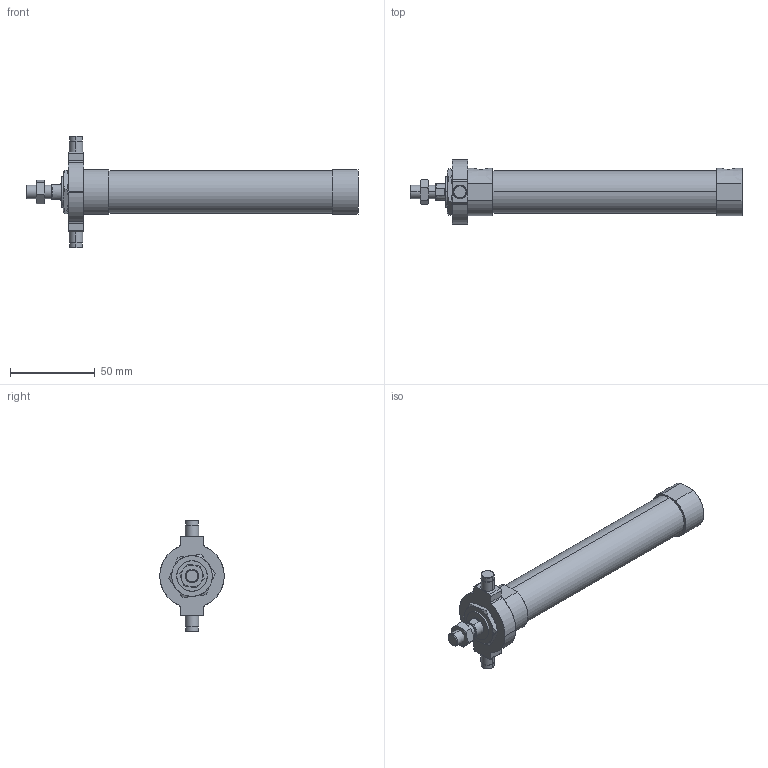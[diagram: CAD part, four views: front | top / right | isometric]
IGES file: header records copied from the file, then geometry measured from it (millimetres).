
Start section: SolidWorks IGES file using analytic representation for surfaces
Global section: file name: C:\Users\Toshiba\Desktop\JGND2-20-100-T.IGS; native system: SolidWorks 2014; preprocessor: SolidWorks 2014; author: Toshiba; date: 160804.103108; units: millimetre
Bounding box: 196 x 38 x 66 mm (x, y, z)
Surface area: 22127.7 mm2 (no closed solid volume)
Topology: 0 solids, 0 shells, 123 faces, 1972 edges, 1972 vertices
Faces by surface type: bspline 68, revolution 55
